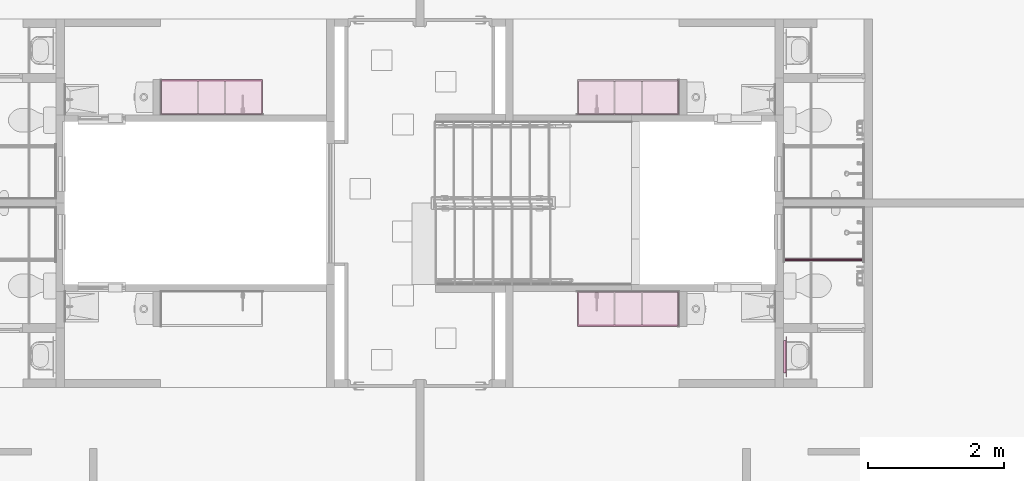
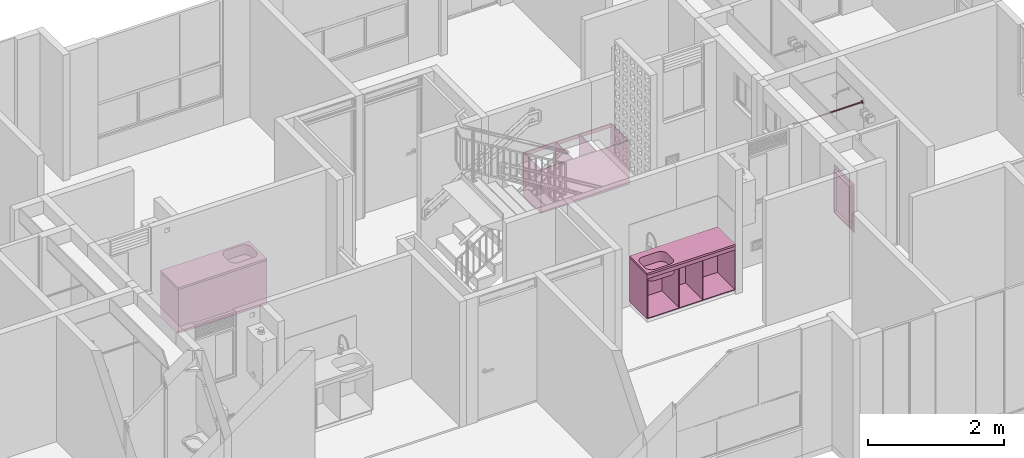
# One storey, part 43 of 48: 7 furniture elements.
"""IFC4 building model written with IfcOpenShell, lengths in metres."""

from ifc_helpers import new_model, entity, si_unit, converted_unit, derived_unit, direction, frame, origin, place, context, subcontext, project, spatial, arc, indexed_curve, outline, extrude, polygons, source, transform, mapped, material, constituent, constituent_set, type_object, type_shapes, element, save


model = new_model("IFC4")

# Units and contexts
model_context = context("Model", 3, precision=1e-05, world=origin(), true_north=direction((6.123031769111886e-17, 1.0)))
body_context = subcontext(model_context, "Body", "Model", "MODEL_VIEW")
ifc_project = project(units=[si_unit("LENGTHUNIT", "METRE"), si_unit("AREAUNIT", "SQUARE_METRE"), si_unit("VOLUMEUNIT", "CUBIC_METRE"), converted_unit("PLANEANGLEUNIT", "DEGREE", entity("IfcRatioMeasure", 0.017453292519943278), si_unit("PLANEANGLEUNIT", "RADIAN"), dimensions=[0, 0, 0, 0, 0, 0, 0]), si_unit("MASSUNIT", "GRAM", prefix="KILO"), derived_unit("MASSDENSITYUNIT", [(si_unit("MASSUNIT", "GRAM", prefix="KILO"), 1), (si_unit("LENGTHUNIT", "METRE"), -3)]), derived_unit("IONCONCENTRATIONUNIT", [(si_unit("MASSUNIT", "GRAM", prefix="KILO"), 1), (si_unit("LENGTHUNIT", "METRE"), -3)]), derived_unit("MOMENTOFINERTIAUNIT", [(si_unit("LENGTHUNIT", "METRE"), 4)]), si_unit("TIMEUNIT", "SECOND"), si_unit("FREQUENCYUNIT", "HERTZ"), si_unit("THERMODYNAMICTEMPERATUREUNIT", "DEGREE_CELSIUS"), derived_unit("THERMALTRANSMITTANCEUNIT", [(si_unit("MASSUNIT", "GRAM", prefix="KILO"), 1), (si_unit("THERMODYNAMICTEMPERATUREUNIT", "KELVIN"), -1), (si_unit("TIMEUNIT", "SECOND"), -3)]), derived_unit("THERMALCONDUCTANCEUNIT", [(si_unit("MASSUNIT", "GRAM", prefix="KILO"), 1), (si_unit("THERMODYNAMICTEMPERATUREUNIT", "KELVIN"), -1), (si_unit("TIMEUNIT", "SECOND"), -3), (si_unit("LENGTHUNIT", "METRE"), 1)]), derived_unit("VOLUMETRICFLOWRATEUNIT", [(si_unit("LENGTHUNIT", "METRE"), 3), (si_unit("TIMEUNIT", "SECOND"), -1)]), derived_unit("MASSFLOWRATEUNIT", [(si_unit("MASSUNIT", "GRAM", prefix="KILO"), 1), (si_unit("TIMEUNIT", "SECOND"), -1)]), derived_unit("ROTATIONALFREQUENCYUNIT", [(si_unit("TIMEUNIT", "SECOND"), -1)]), si_unit("ELECTRICCURRENTUNIT", "AMPERE"), si_unit("ELECTRICVOLTAGEUNIT", "VOLT"), si_unit("POWERUNIT", "WATT"), si_unit("FORCEUNIT", "NEWTON", prefix="KILO"), si_unit("ILLUMINANCEUNIT", "LUX"), si_unit("LUMINOUSFLUXUNIT", "LUMEN"), si_unit("LUMINOUSINTENSITYUNIT", "CANDELA"), derived_unit("USERDEFINED", [(si_unit("MASSUNIT", "GRAM", prefix="KILO"), -1), (si_unit("LENGTHUNIT", "METRE"), -2), (si_unit("TIMEUNIT", "SECOND"), 3), (si_unit("LUMINOUSFLUXUNIT", "LUMEN"), 1)]), derived_unit("USERDEFINED", [(si_unit("MASSUNIT", "GRAM", prefix="KILO"), 1), (si_unit("TIMEUNIT", "SECOND"), -3), (si_unit("LENGTHUNIT", "METRE"), 3), (si_unit("ELECTRICCURRENTUNIT", "AMPERE"), -2)]), derived_unit("SOUNDPOWERUNIT", [(si_unit("MASSUNIT", "GRAM", prefix="KILO"), 1), (si_unit("TIMEUNIT", "SECOND"), -3), (si_unit("LENGTHUNIT", "METRE"), 2)]), derived_unit("SOUNDPRESSUREUNIT", [(si_unit("MASSUNIT", "GRAM", prefix="KILO"), 1), (si_unit("LENGTHUNIT", "METRE"), -1), (si_unit("TIMEUNIT", "SECOND"), -2)]), derived_unit("LINEARVELOCITYUNIT", [(si_unit("LENGTHUNIT", "METRE"), 1), (si_unit("TIMEUNIT", "SECOND"), -1)]), si_unit("PRESSUREUNIT", "PASCAL"), derived_unit("USERDEFINED", [(si_unit("MASSUNIT", "GRAM", prefix="KILO"), 1), (si_unit("LENGTHUNIT", "METRE"), -2), (si_unit("TIMEUNIT", "SECOND"), -2)]), derived_unit("LINEARFORCEUNIT", [(si_unit("MASSUNIT", "GRAM", prefix="KILO"), 1), (si_unit("TIMEUNIT", "SECOND"), -2)]), derived_unit("PLANARFORCEUNIT", [(si_unit("MASSUNIT", "GRAM", prefix="KILO"), 1), (si_unit("LENGTHUNIT", "METRE"), -1), (si_unit("TIMEUNIT", "SECOND"), -2)]), derived_unit("SPECIFICHEATCAPACITYUNIT", [(si_unit("THERMODYNAMICTEMPERATUREUNIT", "KELVIN"), -1), (si_unit("LENGTHUNIT", "METRE"), 2), (si_unit("TIMEUNIT", "SECOND"), -2)]), derived_unit("HEATINGVALUEUNIT", [(si_unit("LENGTHUNIT", "METRE"), 2), (si_unit("TIMEUNIT", "SECOND"), -2)]), derived_unit("VAPORPERMEABILITYUNIT", [(si_unit("LENGTHUNIT", "METRE"), -1), (si_unit("TIMEUNIT", "SECOND"), 1)]), derived_unit("DYNAMICVISCOSITYUNIT", [(si_unit("MASSUNIT", "GRAM", prefix="KILO"), 1), (si_unit("TIMEUNIT", "SECOND"), -1), (si_unit("LENGTHUNIT", "METRE"), -1)]), derived_unit("THERMALEXPANSIONCOEFFICIENTUNIT", [(si_unit("THERMODYNAMICTEMPERATUREUNIT", "KELVIN"), -1)]), derived_unit("MODULUSOFELASTICITYUNIT", [(si_unit("MASSUNIT", "GRAM", prefix="KILO"), 1), (si_unit("LENGTHUNIT", "METRE"), -1), (si_unit("TIMEUNIT", "SECOND"), -2)]), derived_unit("ISOTHERMALMOISTURECAPACITYUNIT", [(si_unit("LENGTHUNIT", "METRE"), 3), (si_unit("MASSUNIT", "GRAM", prefix="KILO"), -1)]), derived_unit("MOISTUREDIFFUSIVITYUNIT", [(si_unit("TIMEUNIT", "SECOND"), -1), (si_unit("LENGTHUNIT", "METRE"), 2)])], contexts=[model_context])

# Site, building, storey
site_placement = place(None, origin())
site = spatial("IfcSite", under=ifc_project, at=site_placement, Name="Default", CompositionType="ELEMENT")
building_placement = place(site_placement, origin())
building = spatial("IfcBuilding", under=site, at=building_placement, CompositionType="ELEMENT")
storey_placement = place(building_placement, frame((0.0, 0.0, 7.050000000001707)))
storey = spatial("IfcBuildingStorey", under=building, at=storey_placement, Name="Nivel 4", CompositionType="ELEMENT", Elevation=7.050000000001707)

# Furniture
ifc_material_1 = material(Name="Aluminio", Category="Materials")
ifc_constituent_1 = constituent(ifc_material_1, Name="Aluminio", Category="Materials")
ifc_material_2 = material(Name="ESPEJO", Category="Materials")
ifc_constituent_2 = constituent(ifc_material_2, Name="ESPEJO", Category="Materials")
ifc_constituent_set_1 = constituent_set(constituents=[ifc_constituent_1, ifc_constituent_2])
ifc_constituent_3 = constituent(ifc_material_1, Name="Aluminio", Category="Materials")
ifc_constituent_4 = constituent(ifc_material_2, Name="ESPEJO", Category="Materials")
ifc_constituent_set_2 = constituent_set(constituents=[ifc_constituent_3, ifc_constituent_4])
furniture_type_1 = type_object("IfcFurnitureType", Name="E2050 - Espejo:E2050 - 0.60m x 0.87m - Espejo", AssemblyPlace="NOTDEFINED", PredefinedType="NOTDEFINED", material=ifc_constituent_set_2)
shared_shape_1 = source(origin(), body_context, "Body", "SweptSolid", [
    extrude(outline(indexed_curve([(-0.3749999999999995, -0.2399999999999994), (0.37499999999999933, -0.23999999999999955), (0.3749999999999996, 0.2399999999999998), (-0.3749999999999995, 0.23999999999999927), (-0.3749999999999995, -0.2399999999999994)], self_intersect=False), holes=[indexed_curve([(-0.34999999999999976, 0.21499999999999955), (0.34999999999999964, 0.21499999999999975), (0.34999999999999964, -0.21499999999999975), (-0.34999999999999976, -0.21499999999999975), (-0.34999999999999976, 0.21499999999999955)], self_intersect=False)]), frame((0.12499999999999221, -0.09999999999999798, 1.485), z_axis=(0.0, 1.0, 0.0), x_axis=(0.0, 0.0, -1.0)), (0.0, 0.0, 1.0), 0.037500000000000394),
    extrude(outline(indexed_curve([(-0.30000000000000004, -0.00350000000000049), (0.30000000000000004, -0.00350000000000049), (0.30000000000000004, 0.00350000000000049), (-0.30000000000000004, 0.00350000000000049), (-0.30000000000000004, -0.00350000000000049)], self_intersect=False)), frame((0.1249999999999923, -0.10350000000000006, 1.05), z_axis=(0.0, 0.0, 1.0), x_axis=(-1.0, 0.0, 0.0)), (0.0, 0.0, 1.0), 0.87),
])
type_shapes(furniture_type_1, [shared_shape_1])
furniture_1_placement = place(storey_placement, frame((14.620000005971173, -8.815000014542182, -0.02000000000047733), z_axis=(0.0, 0.0, 1.0), x_axis=(0.0, 1.0, 0.0)))
element("IfcFurniture", 1, at=furniture_1_placement, inside=storey, type_object=furniture_type_1, material=ifc_constituent_set_1, Name="E2050 - Espejo:E2050 - 0.60m x 0.87m - Espejo", ObjectType="E2050 - Espejo:E2050 - 0.60m x 0.87m - Espejo", PredefinedType="NOTDEFINED", context=body_context, shape_type="MappedRepresentation", body=[
    mapped(shared_shape_1, transform((0.0, 0.0, 0.0), scale=1.0)),
])

# Space
space_1_placement = place(storey_placement, origin())
space_1 = spatial("IfcSpace", under=storey, at=space_1_placement, Name="225", CompositionType="ELEMENT", PredefinedType="SPACE")

# Furniture
ifc_material_3 = material(Name="<Unnamed>")
furniture_type_2 = type_object("IfcFurnitureType", Name="Barra baño:E2050- Barra Baño- Acero inoxidable", AssemblyPlace="NOTDEFINED", PredefinedType="NOTDEFINED", material=ifc_material_3)
shared_shape_2 = source(origin(), body_context, "Body", "SweptSolid", [
    extrude(outline(indexed_curve([(-0.025, 2.707167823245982e-16), (-2.9325041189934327e-16, -0.025), (0.025, 0.0), (7.924642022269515e-17, 0.025)], segments=[arc(1, 2, 3), arc(3, 4, 1)], self_intersect=False)), frame((-1.1599989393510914, 0.0, 1.8000000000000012), z_axis=(1.0, 0.0, 0.0), x_axis=(0.0, -1.0, 0.0)), (0.0, 0.0, 1.0), 0.005000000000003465),
    extrude(outline(indexed_curve([(-0.03, 2.707167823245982e-16), (-3.2525514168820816e-16, -0.029999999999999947), (0.03, 0.0), (9.509570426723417e-17, 0.029999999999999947)], segments=[arc(1, 2, 3), arc(3, 4, 1)], self_intersect=False)), frame((-1.164998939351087, 0.0, 1.8000000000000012), z_axis=(1.0, 0.0, 0.0), x_axis=(0.0, -1.0, 0.0)), (0.0, 0.0, 1.0), 0.0049999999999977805),
    extrude(outline(indexed_curve([(-0.0125, 0.0), (-8.001182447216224e-17, -0.012499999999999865), (0.0125, 0.0), (3.9623210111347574e-17, 0.012499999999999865)], segments=[arc(1, 2, 3), arc(3, 4, 1)], self_intersect=False)), frame((-1.1549989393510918, 0.0, 1.7999999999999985), z_axis=(1.0, 0.0, 0.0), x_axis=(0.0, -1.0, 0.0)), (0.0, 0.0, 1.0), 1.149998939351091),
    extrude(outline(indexed_curve([(-0.025, 0.0), (-1.600236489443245e-16, -0.025000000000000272), (0.025, 0.0), (-5.398034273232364e-17, 0.02499999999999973)], segments=[arc(1, 2, 3), arc(3, 4, 1)], self_intersect=False)), frame((-0.005000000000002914, 0.0, 1.7999999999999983), z_axis=(1.0, 0.0, 0.0), x_axis=(0.0, -1.0, 0.0)), (0.0, 0.0, 1.0), 0.005000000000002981),
    extrude(outline(indexed_curve([(-0.03, 0.0), (-1.9202837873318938e-16, -0.030000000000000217), (0.03, 0.0), (-3.813105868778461e-17, 0.029999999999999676)], segments=[arc(1, 2, 3), arc(3, 4, 1)], self_intersect=False)), frame((0.0, 0.0, 1.7999999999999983), z_axis=(1.0, 0.0, 0.0), x_axis=(0.0, -1.0, 0.0)), (0.0, 0.0, 1.0), 0.00499999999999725),
])
type_shapes(furniture_type_2, [shared_shape_2])
furniture_2_placement = place(space_1_placement, frame((14.692500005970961, -7.260000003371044, 0.1299999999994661), z_axis=(0.0, 0.0, 1.0), x_axis=(-1.0, 0.0, 0.0)))
element("IfcFurniture", 2, at=furniture_2_placement, inside=space_1, type_object=furniture_type_2, material=ifc_material_3, Name="Barra baño:E2050- Barra Baño- Acero inoxidable", ObjectType="Barra baño:E2050- Barra Baño- Acero inoxidable", PredefinedType="NOTDEFINED", context=body_context, shape_type="MappedRepresentation", body=[
    mapped(shared_shape_2, transform((0.0, 0.0, 0.0), scale=1.0)),
])

# Space
space_2_placement = place(storey_placement, origin())
space_2 = spatial("IfcSpace", under=storey, at=space_2_placement, Name="221", CompositionType="ELEMENT", PredefinedType="SPACE")

# Furniture
ifc_material_4 = material(Name="mueble cocina", Category="Materials")
furniture_type_3 = type_object("IfcFurnitureType", Name="E2010 - Mueble bajo de cocina - Madera:E2010 - 1.50 x 0.52 - Mueble bajo de cocina - Madera", AssemblyPlace="NOTDEFINED", PredefinedType="NOTDEFINED", material=ifc_material_4)
shared_shape_3 = source(origin(), body_context, "Body", "SweptSolid", [
    extrude(outline(indexed_curve([(-0.007500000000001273, -0.7349999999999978), (0.007499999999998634, -0.7349999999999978), (0.007500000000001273, 0.7349999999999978), (-0.007499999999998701, 0.7349999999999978), (-0.007500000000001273, -0.7349999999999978)], self_intersect=False)), frame((0.04470032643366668, -0.5125000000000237, 0.8149999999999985), z_axis=(0.0, 0.0, 1.0), x_axis=(0.0, -1.0, 0.0)), (0.0, 0.0, 1.0), 0.06500000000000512),
    extrude(outline(indexed_curve([(-0.2600000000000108, -0.7499999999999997), (0.260000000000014, -0.7499999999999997), (0.2600000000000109, 0.7500000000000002), (-0.2600000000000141, 0.7499999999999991), (-0.2600000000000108, -0.7499999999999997)], self_intersect=False)), frame((0.04470032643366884, -0.2600000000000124, 0.09500000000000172), z_axis=(0.0, 0.0, 1.0), x_axis=(0.0, -1.0, 0.0)), (0.0, 0.0, 1.0), 0.0149999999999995),
    extrude(outline(indexed_curve([(-0.007500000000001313, -0.7500000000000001), (0.007499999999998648, -0.7500000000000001), (0.0075000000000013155, 0.7500000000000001), (-0.007499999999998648, 0.7500000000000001), (-0.007500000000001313, -0.7500000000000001)], self_intersect=False)), frame((0.04470032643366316, -0.00749999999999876, 0.11000000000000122), z_axis=(0.0, 0.0, 1.0), x_axis=(0.0, -1.0, 0.0)), (0.0, 0.0, 1.0), 0.7700000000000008),
    extrude(outline(indexed_curve([(-0.007500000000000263, -0.24500000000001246), (0.007499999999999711, -0.24500000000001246), (0.007500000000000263, 0.24500000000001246), (-0.007499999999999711, 0.24500000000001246), (-0.007500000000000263, -0.24500000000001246)], self_intersect=False)), frame((-0.1552996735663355, -0.2600000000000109, 0.11000000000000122), z_axis=(0.0, 0.0, 1.0), x_axis=(-1.0, 0.0, 0.0)), (0.0, 0.0, 1.0), 0.7700000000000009),
    extrude(outline(indexed_curve([(-0.007499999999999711, -0.24500000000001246), (0.007500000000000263, -0.24500000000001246), (0.007499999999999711, 0.24500000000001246), (-0.007500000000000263, 0.24500000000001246), (-0.007499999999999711, -0.24500000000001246)], self_intersect=False)), frame((0.24470032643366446, -0.26000000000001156, 0.11000000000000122), z_axis=(0.0, 0.0, 1.0), x_axis=(-1.0, 0.0, 0.0)), (0.0, 0.0, 1.0), 0.7700000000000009),
    extrude(outline(indexed_curve([(-0.00750000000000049, -0.2525000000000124), (0.0074999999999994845, -0.25250000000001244), (0.007500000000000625, 0.2525000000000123), (-0.007499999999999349, 0.2525000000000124), (-0.00750000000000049, -0.2525000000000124)], self_intersect=False)), frame((0.7872003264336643, -0.2675000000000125, 0.11000000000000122), z_axis=(0.0, 0.0, 1.0), x_axis=(-1.0, 0.0, 0.0)), (0.0, 0.0, 1.0), 0.7700000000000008),
    extrude(outline(indexed_curve([(-0.007499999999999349, -0.2525000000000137), (0.007500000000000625, -0.2525000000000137), (0.0074999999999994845, 0.25250000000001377), (-0.00750000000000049, 0.2525000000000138), (-0.007499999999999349, -0.2525000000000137)], self_intersect=False)), frame((-0.697799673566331, -0.2675000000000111, 0.11000000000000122), z_axis=(0.0, 0.0, 1.0), x_axis=(-1.0, 0.0, 0.0)), (0.0, 0.0, 1.0), 0.7700000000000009),
])
type_shapes(furniture_type_3, [shared_shape_3])
furniture_3_placement = place(space_2_placement, frame((12.437200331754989, -5.125000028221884, 0.014999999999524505), z_axis=(0.0, 0.0, 1.0), x_axis=(-1.0, 0.0, 0.0)))
element("IfcFurniture", 3, at=furniture_3_placement, inside=space_2, type_object=furniture_type_3, material=ifc_material_4, Name="E2010 - Mueble bajo de cocina - Madera:E2010 - 1.50 x 0.52 - Mueble bajo de cocina - Madera", ObjectType="E2010 - Mueble bajo de cocina - Madera:E2010 - 1.50 x 0.52 - Mueble bajo de cocina - Madera", PredefinedType="NOTDEFINED", context=body_context, shape_type="MappedRepresentation", body=[
    mapped(shared_shape_3, transform((0.0, 0.0, 0.0), scale=1.0)),
])

# Space
space_3_placement = place(storey_placement, origin())
space_3 = spatial("IfcSpace", under=storey, at=space_3_placement, Name="205", CompositionType="ELEMENT", PredefinedType="SPACE")

# Furniture
furniture_type_4 = type_object("IfcFurnitureType", Name="E2010 - Mueble bajo de cocina - Madera:E2010 - 1.50 x 0.52 - Mueble bajo de cocina - Madera", AssemblyPlace="NOTDEFINED", PredefinedType="NOTDEFINED", material=ifc_material_4)
shared_shape_4 = source(origin(), body_context, "Body", "SweptSolid", [
    extrude(outline(indexed_curve([(-0.7349999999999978, -0.007499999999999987), (0.7349999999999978, -0.007499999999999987), (0.7349999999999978, 0.007499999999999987), (-0.7349999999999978, 0.007499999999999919), (-0.7349999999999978, -0.007499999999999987)], self_intersect=False)), frame((0.04470032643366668, 0.5125000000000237, 0.8149999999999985)), (0.0, 0.0, 1.0), 0.06500000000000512),
    extrude(outline(indexed_curve([(-0.7499999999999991, -0.26000000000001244), (0.7499999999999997, -0.26000000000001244), (0.7499999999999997, 0.26000000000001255), (-0.7500000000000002, 0.26000000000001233), (-0.7499999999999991, -0.26000000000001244)], self_intersect=False)), frame((0.04470032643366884, 0.26000000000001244, 0.09500000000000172)), (0.0, 0.0, 1.0), 0.0149999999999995),
    extrude(outline(indexed_curve([(-0.7500000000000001, -0.007499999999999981), (0.7500000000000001, -0.007499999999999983), (0.7500000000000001, 0.007499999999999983), (-0.7500000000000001, 0.007499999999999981), (-0.7500000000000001, -0.007499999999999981)], self_intersect=False)), frame((0.04470032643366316, 0.00749999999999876, 0.11000000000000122)), (0.0, 0.0, 1.0), 0.7700000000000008),
    extrude(outline(indexed_curve([(-0.24500000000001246, -0.007499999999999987), (0.24500000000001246, -0.007499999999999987), (0.24500000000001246, 0.007499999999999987), (-0.24500000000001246, 0.007499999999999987), (-0.24500000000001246, -0.007499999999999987)], self_intersect=False)), frame((-0.1552996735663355, 0.2600000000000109, 0.11000000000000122), z_axis=(0.0, 0.0, 1.0), x_axis=(0.0, 1.0, 0.0)), (0.0, 0.0, 1.0), 0.7700000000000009),
    extrude(outline(indexed_curve([(-0.24500000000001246, -0.007499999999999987), (0.24500000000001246, -0.007499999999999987), (0.24500000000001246, 0.007499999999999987), (-0.24500000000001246, 0.007499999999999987), (-0.24500000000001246, -0.007499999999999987)], self_intersect=False)), frame((0.24470032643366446, 0.26000000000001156, 0.11000000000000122), z_axis=(0.0, 0.0, 1.0), x_axis=(0.0, 1.0, 0.0)), (0.0, 0.0, 1.0), 0.7700000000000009),
    extrude(outline(indexed_curve([(-0.25250000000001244, -0.007500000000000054), (0.2525000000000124, -0.007500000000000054), (0.2525000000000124, 0.007499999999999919), (-0.2525000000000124, 0.007499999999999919), (-0.25250000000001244, -0.007500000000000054)], self_intersect=False)), frame((0.7872003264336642, 0.2675000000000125, 0.11000000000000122), z_axis=(0.0, 0.0, 1.0), x_axis=(0.0, 1.0, 0.0)), (0.0, 0.0, 1.0), 0.7700000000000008),
    extrude(outline(indexed_curve([(-0.2525000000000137, -0.007500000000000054), (0.2525000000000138, -0.007500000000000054), (0.2525000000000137, 0.007499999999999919), (-0.2525000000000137, 0.007499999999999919), (-0.2525000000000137, -0.007500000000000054)], self_intersect=False)), frame((-0.6977996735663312, 0.2675000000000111, 0.11000000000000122), z_axis=(0.0, 0.0, 1.0), x_axis=(0.0, 1.0, 0.0)), (0.0, 0.0, 1.0), 0.7700000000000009),
])
type_shapes(furniture_type_4, [shared_shape_4])
furniture_4_placement = place(space_3_placement, frame((6.207799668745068, -5.1250000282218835, 0.014999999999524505)))
element("IfcFurniture", 4, at=furniture_4_placement, inside=space_3, type_object=furniture_type_4, material=ifc_material_4, Name="E2010 - Mueble bajo de cocina - Madera:E2010 - 1.50 x 0.52 - Mueble bajo de cocina - Madera", ObjectType="E2010 - Mueble bajo de cocina - Madera:E2010 - 1.50 x 0.52 - Mueble bajo de cocina - Madera", PredefinedType="NOTDEFINED", context=body_context, shape_type="MappedRepresentation", body=[
    mapped(shared_shape_4, transform((0.0, 0.0, 0.0), scale=1.0)),
])

# Space
space_4_placement = place(storey_placement, origin())
space_4 = spatial("IfcSpace", under=storey, at=space_4_placement, Name="228", CompositionType="ELEMENT", PredefinedType="SPACE")

# Furniture
furniture_5_placement = place(space_4_placement, frame((12.437200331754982, -7.725000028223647, 0.014999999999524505), z_axis=(0.0, 0.0, 1.0), x_axis=(-1.0, 0.0, 0.0)))
element("IfcFurniture", 5, at=furniture_5_placement, inside=space_4, type_object=furniture_type_4, material=ifc_material_4, Name="E2010 - Mueble bajo de cocina - Madera:E2010 - 1.50 x 0.52 - Mueble bajo de cocina - Madera", ObjectType="E2010 - Mueble bajo de cocina - Madera:E2010 - 1.50 x 0.52 - Mueble bajo de cocina - Madera", PredefinedType="NOTDEFINED", context=body_context, shape_type="MappedRepresentation", body=[
    mapped(shared_shape_4, transform((0.0, 0.0, 0.0), scale=1.0)),
])
ifc_material_5 = material(Name="Mesón cocina", Category="Materials")
furniture_type_5 = type_object("IfcFurnitureType", Name="E1060 - Meson Socoda Radiante - 1.50 X 0.52 - Acero inoxidable:E1060 - 1.50 x 0.52 - Meson de cocina, lavadero y estufa - Acero inoxidable", AssemblyPlace="NOTDEFINED", PredefinedType="NOTDEFINED", material=ifc_material_5)
shared_shape_5 = source(origin(), body_context, "Body", "Tessellation", [
    polygons([(0.7500000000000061, -0.2600000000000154, 0.03499999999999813), (0.7500000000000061, 0.2600000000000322, 0.03499999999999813), (-0.7499999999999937, 0.2600000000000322, 0.03499999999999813), (-0.7499999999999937, -0.2600000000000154, 0.03499999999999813), (0.23610399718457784, -0.03077661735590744, 0.03499999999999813), (0.23610399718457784, 0.11422338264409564, 0.03499999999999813), (0.23985215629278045, 0.14269347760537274, 0.03499999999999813), (0.2508412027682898, 0.1692233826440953, 0.03499999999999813), (0.2683222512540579, 0.1920051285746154, 0.03499999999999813), (0.2911039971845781, 0.20948617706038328, 0.03499999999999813), (0.31763390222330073, 0.22047522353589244, 0.03499999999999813), (0.3461039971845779, 0.22422338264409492, 0.03499999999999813), (0.5934732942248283, 0.2242233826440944, 0.03499999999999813), (0.6219433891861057, 0.22047522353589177, 0.03499999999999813), (0.6484732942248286, 0.20948617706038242, 0.03499999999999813), (0.6712550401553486, 0.1920051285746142, 0.03499999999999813), (0.6887360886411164, 0.1692233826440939, 0.03499999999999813), (0.6997251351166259, 0.14269347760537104, 0.03499999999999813), (0.703473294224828, 0.11422338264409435, 0.03499999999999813), (0.7034732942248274, -0.030776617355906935, 0.03499999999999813), (0.6997251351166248, -0.05924671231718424, 0.03499999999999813), (0.6887360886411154, -0.08577661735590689, 0.03499999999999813), (0.6712550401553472, -0.10855836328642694, 0.03499999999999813), (0.6484732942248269, -0.1260394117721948, 0.03499999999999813), (0.6219433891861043, -0.13702845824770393, 0.03499999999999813), (0.5934732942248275, -0.14077661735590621, 0.03499999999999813), (0.3461039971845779, -0.14077661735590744, 0.03499999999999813), (0.31763390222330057, -0.13702845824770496, 0.03499999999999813), (0.2911039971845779, -0.1260394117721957, 0.03499999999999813), (0.2683222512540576, -0.10855836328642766, 0.03499999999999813), (0.2508412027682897, -0.08577661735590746, 0.03499999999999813), (0.23985215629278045, -0.05924671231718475, 0.03499999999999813), (0.7500000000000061, -0.2600000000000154, -1.8678232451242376e-15), (-0.7499999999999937, -0.2600000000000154, -1.8678232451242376e-15), (-0.7499999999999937, 0.2600000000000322, -1.8678232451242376e-15), (0.7500000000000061, 0.2600000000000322, -1.8678232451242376e-15), (0.5934732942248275, -0.15077661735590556, -1.8678232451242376e-15), (0.62453157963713, -0.1466877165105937, -1.8678232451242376e-15), (0.6534732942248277, -0.13469966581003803, -1.8678232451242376e-15), (0.6783261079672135, -0.11562943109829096, -1.8678232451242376e-15), (0.6973963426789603, -0.09077661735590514, -1.8678232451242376e-15), (0.7093843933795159, -0.061834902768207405, -1.8678232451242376e-15), (0.7134732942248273, -0.030776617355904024, -1.8678232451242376e-15), (0.7134732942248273, 0.11422338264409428, -1.8678232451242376e-15), (0.7093843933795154, 0.14528166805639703, -1.8678232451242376e-15), (0.6973963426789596, 0.17422338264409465, -1.8678232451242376e-15), (0.6783261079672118, 0.19907619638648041, -1.8678232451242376e-15), (0.6534732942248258, 0.21814643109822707, -1.8678232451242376e-15), (0.6245315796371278, 0.2301344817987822, -1.8678232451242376e-15), (0.5934732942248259, 0.23422338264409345, -1.8678232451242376e-15), (0.34610399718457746, 0.23422338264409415, -1.8678232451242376e-15), (0.31504571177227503, 0.2301344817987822, -1.8678232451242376e-15), (0.2861039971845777, 0.2181464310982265, -1.8678232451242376e-15), (0.2612511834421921, 0.19907619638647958, -1.8678232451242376e-15), (0.24218094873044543, 0.17422338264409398, -1.8678232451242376e-15), (0.2301928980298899, 0.14528166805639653, -1.8678232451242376e-15), (0.22610399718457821, 0.11422338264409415, -1.8678232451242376e-15), (0.22610399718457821, -0.030776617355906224, -1.8678232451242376e-15), (0.23019289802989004, -0.06183490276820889, -1.8678232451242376e-15), (0.2421809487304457, -0.09077661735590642, -1.8678232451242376e-15), (0.2612511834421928, -0.11562943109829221, -1.8678232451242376e-15), (0.2861039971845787, -0.13469966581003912, -1.8678232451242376e-15), (0.31504571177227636, -0.1466877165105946, -1.8678232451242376e-15), (0.34610399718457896, -0.1507766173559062, -1.8678232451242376e-15), (0.5934732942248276, -0.1507766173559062, -0.16000000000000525), (0.34610399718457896, -0.1507766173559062, -0.16000000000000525), (0.31504571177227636, -0.1466877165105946, -0.16000000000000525), (0.2861039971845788, -0.13469966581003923, -0.16000000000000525), (0.261251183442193, -0.11562943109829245, -0.16000000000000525), (0.2421809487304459, -0.09077661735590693, -0.16000000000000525), (0.23019289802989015, -0.06183490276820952, -0.16000000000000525), (0.22610399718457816, -0.030776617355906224, -0.16000000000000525), (0.22610399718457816, 0.11422338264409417, -0.16000000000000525), (0.2301928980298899, 0.14528166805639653, -0.16000000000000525), (0.24218094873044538, 0.17422338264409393, -0.16000000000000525), (0.26125118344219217, 0.19907619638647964, -0.16000000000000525), (0.28610399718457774, 0.21814643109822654, -0.16000000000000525), (0.3150457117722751, 0.23013448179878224, -0.16000000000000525), (0.3461039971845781, 0.23422338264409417, -0.16000000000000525), (0.5934732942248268, 0.2342233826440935, -0.16000000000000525), (0.6245315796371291, 0.2301344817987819, -0.16000000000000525), (0.6534732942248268, 0.21814643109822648, -0.16000000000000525), (0.6783261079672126, 0.19907619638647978, -0.16000000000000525), (0.6973963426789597, 0.1742233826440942, -0.16000000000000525), (0.7093843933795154, 0.1452816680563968, -0.16000000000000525), (0.7134732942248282, 0.11422338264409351, -0.16000000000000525), (0.7134732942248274, -0.03077661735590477, -0.16000000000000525), (0.7093843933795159, -0.06183490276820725, -0.16000000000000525), (0.6973963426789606, -0.0907766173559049, -0.16000000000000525), (0.6783261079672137, -0.1156294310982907, -0.16000000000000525), (0.6534732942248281, -0.13469966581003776, -0.16000000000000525), (0.6245315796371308, -0.1466877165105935, -0.16000000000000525), (0.3461039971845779, -0.1407766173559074, -0.14475899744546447), (0.5934732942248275, -0.14077661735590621, -0.14475899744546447), (0.6219433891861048, -0.13702845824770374, -0.14475899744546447), (0.6484732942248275, -0.1260394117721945, -0.14475899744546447), (0.6712550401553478, -0.10855836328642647, -0.14475899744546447), (0.6887360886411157, -0.08577661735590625, -0.14475899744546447), (0.699725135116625, -0.05924671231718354, -0.14475899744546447), (0.7034732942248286, -0.030776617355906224, -0.14475899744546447), (0.7034732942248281, 0.11422338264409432, -0.14475899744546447), (0.6997251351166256, 0.14269347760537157, -0.14475899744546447), (0.6887360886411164, 0.16922338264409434, -0.14475899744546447), (0.6712550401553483, 0.19200512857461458, -0.14475899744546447), (0.6484732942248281, 0.20948617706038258, -0.14475899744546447), (0.6219433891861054, 0.22047522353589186, -0.14475899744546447), (0.5934732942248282, 0.22422338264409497, -0.14475899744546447), (0.3461039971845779, 0.2242233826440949, -0.14475899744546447), (0.31763390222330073, 0.22047522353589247, -0.14475899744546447), (0.2911039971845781, 0.20948617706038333, -0.14475899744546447), (0.2683222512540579, 0.19200512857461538, -0.14475899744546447), (0.25084120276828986, 0.16922338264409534, -0.14475899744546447), (0.23985215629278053, 0.14269347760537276, -0.14475899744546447), (0.23610399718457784, 0.11422338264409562, -0.14475899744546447), (0.23610399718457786, -0.030776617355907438, -0.14475899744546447), (0.2398521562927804, -0.05924671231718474, -0.14475899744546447), (0.25084120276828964, -0.08577661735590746, -0.14475899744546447), (0.2683222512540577, -0.10855836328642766, -0.14475899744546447), (0.2911039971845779, -0.1260394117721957, -0.14475899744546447), (0.31763390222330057, -0.13702845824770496, -0.14475899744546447)], [[[1, 2, 3, 4], [21, 22, 23, 24, 25, 26, 27, 28, 29, 30, 31, 32, 5, 6, 7, 8, 9, 10, 11, 12, 13, 14, 15, 16, 17, 18, 19, 20]], [[94, 95, 96, 97, 98, 99, 100, 101, 102, 103, 104, 105, 106, 107, 108, 109, 110, 111, 112, 113, 114, 115, 116, 117, 118, 119, 120, 93]], [[34, 35, 36, 33], [59, 60, 61, 62, 63, 64, 37, 38, 39, 40, 41, 42, 43, 44, 45, 46, 47, 48, 49, 50, 51, 52, 53, 54, 55, 56, 57, 58]], [[71, 72, 73, 74, 75, 76, 77, 78, 79, 80, 81, 82, 83, 84, 85, 86, 87, 88, 89, 90, 91, 92, 65, 66, 67, 68, 69, 70]], [[34, 33, 1, 4]], [[65, 37, 64, 66]], [[13, 12, 108, 107]], [[34, 4, 3, 35]], [[72, 58, 57, 73]], [[20, 19, 101, 100]], [[36, 35, 3, 2]], [[79, 51, 50, 80]], [[27, 26, 94, 93]], [[36, 2, 1, 33]], [[86, 44, 43, 87]], [[6, 5, 115, 114]], [[68, 67, 63, 62]], [[14, 106, 105, 15]], [[69, 68, 62, 61]], [[15, 105, 104, 16]], [[64, 63, 67, 66]], [[107, 106, 14, 13]], [[71, 70, 60, 59]], [[17, 103, 102, 18]], [[72, 71, 59, 58]], [[18, 102, 101, 19]], [[60, 70, 69, 61]], [[16, 104, 103, 17]], [[75, 74, 56, 55]], [[99, 98, 22, 21]], [[76, 75, 55, 54]], [[98, 97, 23, 22]], [[57, 56, 74, 73]], [[21, 20, 100, 99]], [[78, 77, 53, 52]], [[24, 96, 95, 25]], [[79, 78, 52, 51]], [[25, 95, 94, 26]], [[53, 77, 76, 54]], [[23, 97, 96, 24]], [[82, 81, 49, 48]], [[28, 120, 119, 29]], [[83, 82, 48, 47]], [[29, 119, 118, 30]], [[50, 49, 81, 80]], [[93, 120, 28, 27]], [[85, 84, 46, 45]], [[31, 117, 116, 32]], [[86, 85, 45, 44]], [[32, 116, 115, 5]], [[46, 84, 83, 47]], [[30, 118, 117, 31]], [[89, 88, 42, 41]], [[7, 113, 112, 8]], [[90, 89, 41, 40]], [[8, 112, 111, 9]], [[43, 42, 88, 87]], [[114, 113, 7, 6]], [[92, 91, 39, 38]], [[10, 110, 109, 11]], [[65, 92, 38, 37]], [[11, 109, 108, 12]], [[39, 91, 90, 40]], [[9, 111, 110, 10]]], closed=True),
])
type_shapes(furniture_type_5, [shared_shape_5])
furniture_6_placement = place(space_3_placement, frame((6.252499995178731, -4.865000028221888, 0.8949999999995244)))
element("IfcFurniture", 6, at=furniture_6_placement, inside=space_3, type_object=furniture_type_5, material=ifc_material_5, Name="E1060 - Meson Socoda Radiante - 1.50 X 0.52 - Acero inoxidable:E1060 - 1.50 x 0.52 - Meson de cocina, lavadero y estufa - Acero inoxidable", ObjectType="E1060 - Meson Socoda Radiante - 1.50 X 0.52 - Acero inoxidable:E1060 - 1.50 x 0.52 - Meson de cocina, lavadero y estufa - Acero inoxidable", PredefinedType="NOTDEFINED", context=body_context, shape_type="MappedRepresentation", body=[
    mapped(shared_shape_5, transform((0.0, 0.0, 0.0), scale=1.0)),
])
furniture_7_placement = place(space_4_placement, frame((12.392500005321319, -7.9850000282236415, 0.8949999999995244), z_axis=(0.0, 0.0, 1.0), x_axis=(-1.0, 0.0, 0.0)))
element("IfcFurniture", 7, at=furniture_7_placement, inside=space_4, type_object=furniture_type_5, material=ifc_material_5, Name="E1060 - Meson Socoda Radiante - 1.50 X 0.52 - Acero inoxidable:E1060 - 1.50 x 0.52 - Meson de cocina, lavadero y estufa - Acero inoxidable", ObjectType="E1060 - Meson Socoda Radiante - 1.50 X 0.52 - Acero inoxidable:E1060 - 1.50 x 0.52 - Meson de cocina, lavadero y estufa - Acero inoxidable", PredefinedType="NOTDEFINED", context=body_context, shape_type="MappedRepresentation", body=[
    mapped(shared_shape_5, transform((0.0, 0.0, 0.0), scale=1.0)),
])

save(model, "model.ifc")
